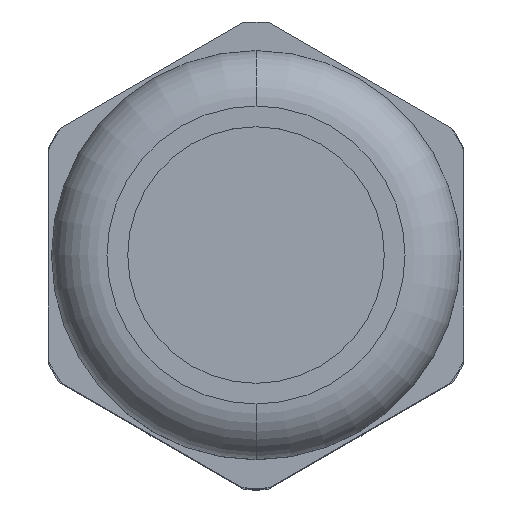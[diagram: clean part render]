
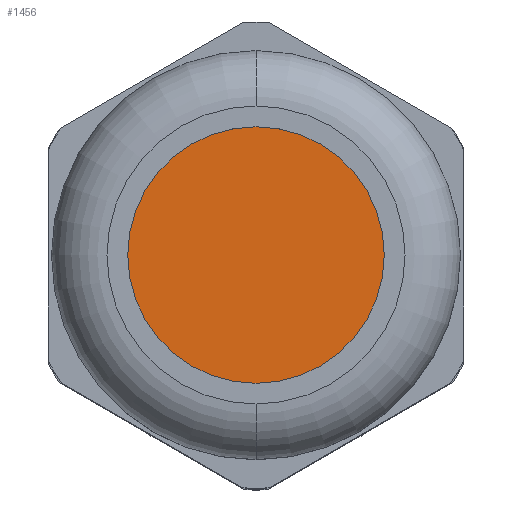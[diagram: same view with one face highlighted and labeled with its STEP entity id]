
A CAD part, top view. The second image highlights one B-rep face of the part: STEP entity #1456.
In plain terms, the highlighted planar face has unit normal (0, 0, 1).
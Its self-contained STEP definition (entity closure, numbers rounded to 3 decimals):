
#445=CARTESIAN_POINT('',(0.,0.,37.75));
#446=DIRECTION('',(0.,0.,-1.));
#447=DIRECTION('',(0.,1.,0.));
#448=AXIS2_PLACEMENT_3D('',#445,#446,#447);
#455=CARTESIAN_POINT('',(0.,0.,37.75));
#456=DIRECTION('',(0.,0.,-1.));
#457=DIRECTION('',(0.,-1.,0.));
#458=AXIS2_PLACEMENT_3D('',#455,#456,#457);
#773=CARTESIAN_POINT('',(0.,9.25,37.75));
#774=CARTESIAN_POINT('',(0.,-9.25,37.75));
#775=VERTEX_POINT('',#773);
#776=VERTEX_POINT('',#774);
#1446=CARTESIAN_POINT('',(0.,0.,37.75));
#1447=DIRECTION('',(0.,0.,1.));
#1448=DIRECTION('',(0.,1.,0.));
#1449=AXIS2_PLACEMENT_3D('',#1446,#1447,#1448);
#1450=PLANE('',#1449);
#1451=ORIENTED_EDGE('',*,*,#1436,.T.);
#1453=ORIENTED_EDGE('',*,*,#1452,.T.);
#1454=EDGE_LOOP('',(#1451,#1453));
#1455=FACE_OUTER_BOUND('',#1454,.F.);
#1456=ADVANCED_FACE('',(#1455),#1450,.T.);
#449=CIRCLE('',#448,9.25);
#459=CIRCLE('',#458,9.25);
#1436=EDGE_CURVE('',#775,#776,#449,.T.);
#1452=EDGE_CURVE('',#776,#775,#459,.T.);
